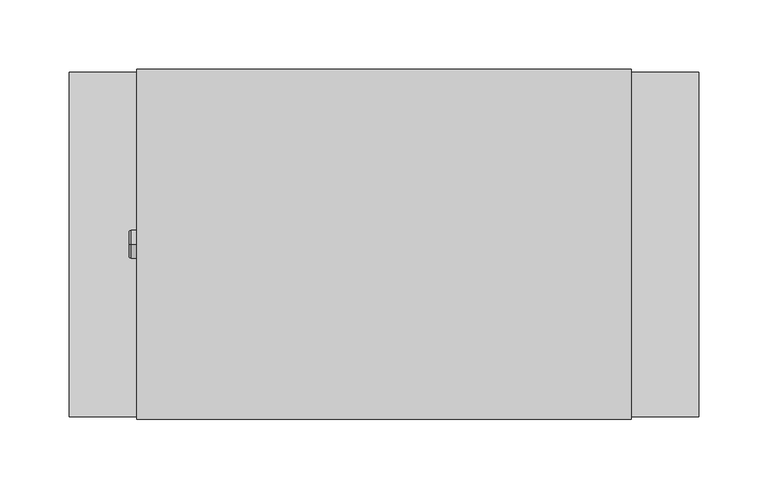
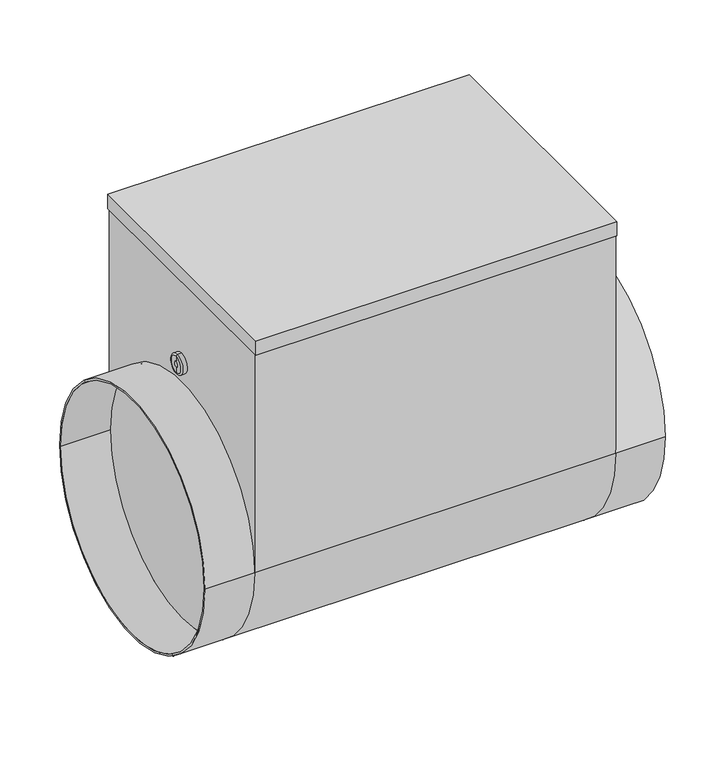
"""IFC4 building model written with IfcOpenShell, lengths in millimetres: proxy geometry, СВ_ВоздухонагревательЭлектрический_КанальныйКруглый_DN100-315_SKH-E : SKH-E-250/12."""

from ifc_helpers import new_model, si_unit, point, frame, origin, place, context, project, spatial, polyline, circle_curve, ellipse_curve, trimmed, outline, extrude, source, transform, mapped, element, save
from ifc_brep_helpers import plane_surface, cylinder_surface, revolved_surface, advanced_brep


def mechanical_equipment_0bfd67fe(model_context):
    return source(origin(), model_context, "Body", "SolidModel", [
        extrude(outline(polyline([(178.5, -126.5), (-178.5, -126.5), (-178.5, 126.5), (178.5, 126.5), (178.5, -126.5)])), frame((0.0, 0.0, 228.5), z_axis=(0.0, 0.0, 1.0), x_axis=(1.0, 0.0, 0.0)), (0.0, 0.0, 1.0), 15.0),
        advanced_brep(
        [(-227.5, -124.5, 0.0), (-227.5, 124.5, 0.0), (-227.5, -122.5, 0.0), (-227.5, 122.5, 0.0), (-178.5, 122.5, 0.0), (-178.5, -122.5, 0.0), (-178.5, 124.5, 0.0), (-178.5, -124.5, 0.0), (178.5, -122.5, 0.0), (178.5, 122.5, 0.0), (178.5, -124.5, 228.5), (178.5, -124.5, 0.0), (178.5, 124.5, 0.0), (178.5, 124.5, 228.5), (-178.5, -124.5, 228.5), (-178.5, 124.5, 228.5), (227.5, -124.5, 0.0), (227.5, 124.5, 0.0), (227.5, -122.5, 0.0), (227.5, 122.5, 0.0)],
        [
            (0, 1, circle_curve(frame((-227.5, 0.0, 0.0), z_axis=(-1.0, 0.0, 0.0), x_axis=(0.0, 1.0, 0.0)), 124.5)),
            (1, 0, circle_curve(frame((-227.5, 0.0, 0.0), z_axis=(-1.0, 0.0, 0.0), x_axis=(0.0, 1.0, 0.0)), 124.5)),
            (2, 3, circle_curve(frame((-227.5, 0.0, 0.0), z_axis=(1.0, 0.0, 0.0), x_axis=(0.0, 1.0, 0.0)), 122.5)),
            (3, 2, circle_curve(frame((-227.5, 0.0, 0.0), z_axis=(1.0, 0.0, 0.0), x_axis=(0.0, 1.0, 0.0)), 122.5)),
            (3, 4),
            (4, 5, circle_curve(frame((-178.5, 0.0, 0.0), z_axis=(1.0, 0.0, 0.0), x_axis=(0.0, 1.0, 0.0)), 122.5)),
            (5, 2),
            (5, 4, circle_curve(frame((-178.5, 0.0, 0.0), z_axis=(1.0, 0.0, 0.0), x_axis=(0.0, 1.0, 0.0)), 122.5)),
            (1, 6),
            (6, 7, circle_curve(frame((-178.5, 0.0, 0.0), z_axis=(-1.0, 0.0, 0.0), x_axis=(0.0, 1.0, 0.0)), 124.5)),
            (7, 0),
            (7, 6, circle_curve(frame((-178.5, 0.0, 0.0), z_axis=(-1.0, 0.0, 0.0), x_axis=(0.0, 1.0, 0.0)), 124.5)),
            (8, 9, circle_curve(frame((178.5, 0.0, 0.0), z_axis=(1.0, 0.0, 0.0), x_axis=(0.0, 1.0, 0.0)), 122.5)),
            (9, 8, circle_curve(frame((178.5, 0.0, 0.0), z_axis=(1.0, 0.0, 0.0), x_axis=(0.0, 1.0, 0.0)), 122.5)),
            (10, 11),
            (11, 12, circle_curve(frame((178.5, 0.0, 0.0), z_axis=(-1.0, 0.0, 0.0), x_axis=(0.0, 1.0, 0.0)), 124.5)),
            (12, 13),
            (13, 10),
            (7, 14),
            (14, 15),
            (15, 6),
            (6, 12),
            (12, 11, circle_curve(frame((178.5, 0.0, 0.0), z_axis=(-1.0, 0.0, 0.0), x_axis=(0.0, 1.0, 0.0)), 124.5)),
            (11, 7),
            (16, 17, circle_curve(frame((227.5, 0.0, 0.0), z_axis=(1.0, 0.0, 0.0), x_axis=(0.0, 1.0, 0.0)), 124.5)),
            (17, 16, circle_curve(frame((227.5, 0.0, 0.0), z_axis=(1.0, 0.0, 0.0), x_axis=(0.0, 1.0, 0.0)), 124.5)),
            (18, 19, circle_curve(frame((227.5, 0.0, 0.0), z_axis=(-1.0, 0.0, 0.0), x_axis=(0.0, 1.0, 0.0)), 122.5)),
            (19, 18, circle_curve(frame((227.5, 0.0, 0.0), z_axis=(-1.0, 0.0, 0.0), x_axis=(0.0, 1.0, 0.0)), 122.5)),
            (18, 8),
            (9, 19),
            (16, 11),
            (12, 17),
            (10, 14),
            (15, 13),
        ],
        [
            plane_surface(frame((-227.5, 122.5, 0.0), z_axis=(-1.0, 0.0, 0.0), x_axis=(0.0, 0.0, 1.0))),
            revolved_surface(polyline([(-227.5, 122.5, 0.0), (-178.5, 122.5, 0.0)]), (-227.5, 0.0, 0.0), (-1.0, 0.0, 0.0)),
            cylinder_surface(frame((0.0, 0.0, 0.0), z_axis=(1.0, 0.0, 0.0), x_axis=(0.0, 1.0, 0.0)), 124.5),
            plane_surface(frame((178.5, 124.5, 0.0), z_axis=(1.0, 0.0, 0.0), x_axis=(0.0, -1.0, 0.0))),
            plane_surface(frame((-178.5, 124.5, 0.0), z_axis=(-1.0, 0.0, 0.0), x_axis=(0.0, 1.0, 0.0))),
            cylinder_surface(frame((-178.5, 0.0, 0.0), z_axis=(1.0, 0.0, 0.0), x_axis=(0.0, 1.0, 0.0)), 124.5),
            plane_surface(frame((227.5, 122.5, 0.0), z_axis=(1.0, 0.0, 0.0), x_axis=(0.0, 0.0, -1.0))),
            revolved_surface(polyline([(178.5, 122.5, 0.0), (227.5, 122.5, 0.0)]), (178.5, 0.0, 0.0), (-1.0, 0.0, 0.0)),
            plane_surface(frame((-178.5, -124.5, 228.5), z_axis=(0.0, -1.0, 0.0), x_axis=(-1.0, 0.0, 0.0))),
            plane_surface(frame((-178.5, 124.5, 228.5), z_axis=(0.0, 1.0, 0.0), x_axis=(1.0, 0.0, 0.0))),
            plane_surface(frame((178.5, -124.5, 228.5), z_axis=(0.0, 0.0, 1.0), x_axis=(0.0, 1.0, 0.0))),
        ],
        [
            (0, [[1, 2], [3, 4]]),
            (1, [[-4, 5, 6, 7]]),
            (1, [[-3, -7, 8, -5]]),
            (2, [[-2, 9, 10, 11]]),
            (2, [[-1, -11, 12, -9]]),
            (3, [[13, 14]]),
            (3, [[15, 16, 17, 18]]),
            (4, [[-8, -6]]),
            (4, [[19, 20, 21, -12]]),
            (5, [[-10, 22, 23, 24]]),
            (6, [[25, 26], [27, 28]]),
            (7, [[-27, 29, -14, 30]]),
            (7, [[-28, -30, -13, -29]]),
            (2, [[-25, 31, -23, 32]]),
            (2, [[-26, -32, -16, -31]]),
            (8, [[33, -19, -24, -15]]),
            (9, [[-17, -22, -21, 34]]),
            (10, [[-33, -18, -34, -20]]),
        ],
    ),
        advanced_brep(
        [(-182.7840134, 0.0, 134.5), (-182.7840134, 0.0, 154.5), (-178.5, 0.0, 154.5), (-178.5, 0.0, 134.5), (-184.2459771, 0.0, 135.9619637), (-184.2459771, 0.0, 153.0380363), (-184.2459771, 0.0, 141.3948071), (-184.2459771, 0.0, 147.6051929), (-181.9138357, 0.0, 141.3948071), (-181.9138357, 0.0, 147.6051929), (-181.9138357, 0.0, 144.5), (-178.5, 0.0, 144.5)],
        [
            (0, 1, circle_curve(frame((-182.7840134, 0.0, 144.5), z_axis=(1.0, 0.0, 0.0), x_axis=(0.0, 0.0, 1.0)), 10.0)),
            (1, 2),
            (2, 3, circle_curve(frame((-178.5, 0.0, 144.5), z_axis=(-1.0, 0.0, 0.0), x_axis=(0.0, 0.0, 1.0)), 10.0)),
            (3, 0),
            (1, 0, circle_curve(frame((-182.7840134, 0.0, 144.5), z_axis=(1.0, 0.0, 0.0), x_axis=(0.0, 0.0, 1.0)), 10.0)),
            (3, 2, circle_curve(frame((-178.5, 0.0, 144.5), z_axis=(-1.0, 0.0, 0.0), x_axis=(0.0, 0.0, 1.0)), 10.0)),
            (4, 5, circle_curve(frame((-184.2459771, 0.0, 144.5), z_axis=(1.0, 0.0, 0.0), x_axis=(0.0, 0.0, 1.0)), 8.5380363)),
            (5, 1, circle_curve(frame((-182.7840134, 0.0, 153.0380363), z_axis=(0.0, 1.0, 0.0), x_axis=(1.0, 0.0, 0.0)), 1.4619637)),
            (0, 4, circle_curve(frame((-182.7840134, 0.0, 135.9619637), z_axis=(0.0, 1.0, 0.0), x_axis=(1.0, 0.0, 0.0)), 1.4619637)),
            (5, 4, circle_curve(frame((-184.2459771, 0.0, 144.5), z_axis=(1.0, 0.0, 0.0), x_axis=(0.0, 0.0, 1.0)), 8.5380363)),
            (6, 7, circle_curve(frame((-184.2459771, 0.0, 144.5), z_axis=(1.0, 0.0, 0.0), x_axis=(0.0, 0.0, 1.0)), 3.1051929)),
            (7, 5),
            (4, 6),
            (7, 6, circle_curve(frame((-184.2459771, 0.0, 144.5), z_axis=(1.0, 0.0, 0.0), x_axis=(0.0, 0.0, 1.0)), 3.1051929)),
            (8, 9, circle_curve(frame((-181.9138357, 0.0, 144.5), z_axis=(1.0, 0.0, 0.0), x_axis=(0.0, 0.0, 1.0)), 3.1051929)),
            (9, 7),
            (6, 8),
            (9, 8, circle_curve(frame((-181.9138357, 0.0, 144.5), z_axis=(1.0, 0.0, 0.0), x_axis=(0.0, 0.0, 1.0)), 3.1051929)),
            (10, 9),
            (8, 10),
            (2, 11),
            (11, 3),
        ],
        [
            cylinder_surface(frame((-214.1635229, 0.0, 144.5), z_axis=(-1.0, 0.0, 0.0), x_axis=(0.0, 0.0, 1.0)), 10.0),
            revolved_surface(trimmed(ellipse_curve(frame((-182.7840134, 0.0, 153.0380363), z_axis=(0.0, -1.0, 0.0), x_axis=(1.0, 0.0, 0.0)), 1.4619637, 1.4619637), [point((-182.7840134, 0.0, 154.5))], [point((-184.2459771, 0.0, 153.0380363))], True, "CARTESIAN"), (-214.1635229, 0.0, 144.5), (-1.0, 0.0, 0.0)),
            plane_surface(frame((-184.2459771, 0.0, 144.5), z_axis=(-1.0, 0.0, 0.0), x_axis=(0.0, 0.0, 1.0))),
            revolved_surface(polyline([(-184.2459771, 0.0, 147.6051929), (-181.9138357, 0.0, 147.6051929)]), (-214.1635229, 0.0, 144.5), (-1.0, 0.0, 0.0)),
            plane_surface(frame((-181.9138357, 0.0, 144.5), z_axis=(-1.0, 0.0, 0.0), x_axis=(0.0, 0.0, 1.0))),
            plane_surface(frame((-178.5, 0.0, 144.5), z_axis=(1.0, 0.0, 0.0), x_axis=(0.0, 0.0, 1.0))),
        ],
        [
            (0, [[1, 2, 3, 4]]),
            (0, [[5, -4, 6, -2]]),
            (1, [[7, 8, -1, 9]]),
            (1, [[10, -9, -5, -8]]),
            (2, [[11, 12, -7, 13]]),
            (2, [[14, -13, -10, -12]]),
            (3, [[15, 16, -11, 17]]),
            (3, [[18, -17, -14, -16]]),
            (4, [[19, -15, 20]]),
            (4, [[-20, -18, -19]]),
            (5, [[-3, 21, 22]]),
            (5, [[-6, -22, -21]]),
        ],
    ),
    ])


if __name__ == "__main__":
    model = new_model("IFC4")
    model_context = context("Model", 3, world=origin())
    ifc_project = project(units=[si_unit("LENGTHUNIT", "METRE", prefix="MILLI")], contexts=[model_context])
    site = spatial("IfcSite", under=ifc_project)
    building = spatial("IfcBuilding", under=site)
    placement = place(None, origin())
    mechanical_equipment_shape = mechanical_equipment_0bfd67fe(model_context)
    element("IfcBuildingElementProxy", 1, Name="СВ_ВоздухонагревательЭлектрический_КанальныйКруглый_DN100-315_SKH-E : SKH-E-250/12", ObjectType="СВ_ВоздухонагревательЭлектрический_КанальныйКруглый_DN100-315_SKH-E : SKH-E-250/12", at=placement, inside=building, context=model_context, shape_type="MappedRepresentation", body=[
        mapped(mechanical_equipment_shape, transform((0.0, 0.0, 0.0), x_axis=(1.0, 0.0, 0.0), y_axis=(0.0, 1.0, 0.0), z_axis=(0.0, 0.0, 1.0))),
    ])
    save(model, "model.ifc")
